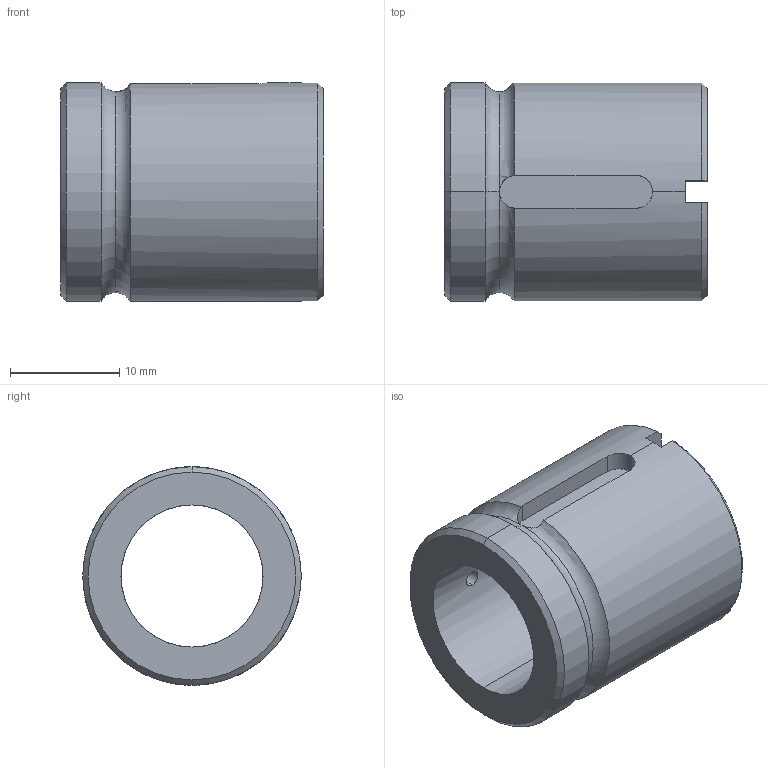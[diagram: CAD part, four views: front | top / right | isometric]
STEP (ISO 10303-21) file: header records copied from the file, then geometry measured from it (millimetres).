
FILE_DESCRIPTION (( 'STEP AP214' ), '1' );
FILE_NAME ('KGM-N 1205.STEP', '2021-01-19T05:31:26', ( 'user' ), ( 'datathink' ), 'SwSTEP 2.0', 'SolidWorks 2013', '' );
FILE_SCHEMA (( 'AUTOMOTIVE_DESIGN' ));
Length unit declared in the file: millimetre
Products named in the file (1): KGM-N 1205
Bounding box: 24 x 20 x 20 mm (x, y, z)
Volume: 4145.3 mm3; surface area: 2912.9 mm2
Topology: 1 solids, 1 shells, 31 faces, 82 edges, 51 vertices
Faces by surface type: plane 12, cylinder 11, torus 4, cone 4
Entity records: 1111 total; most frequent: CARTESIAN_POINT 301, DIRECTION 165, ORIENTED_EDGE 164, EDGE_CURVE 82, AXIS2_PLACEMENT_3D 65, VERTEX_POINT 51, LINE 35, VECTOR 35
